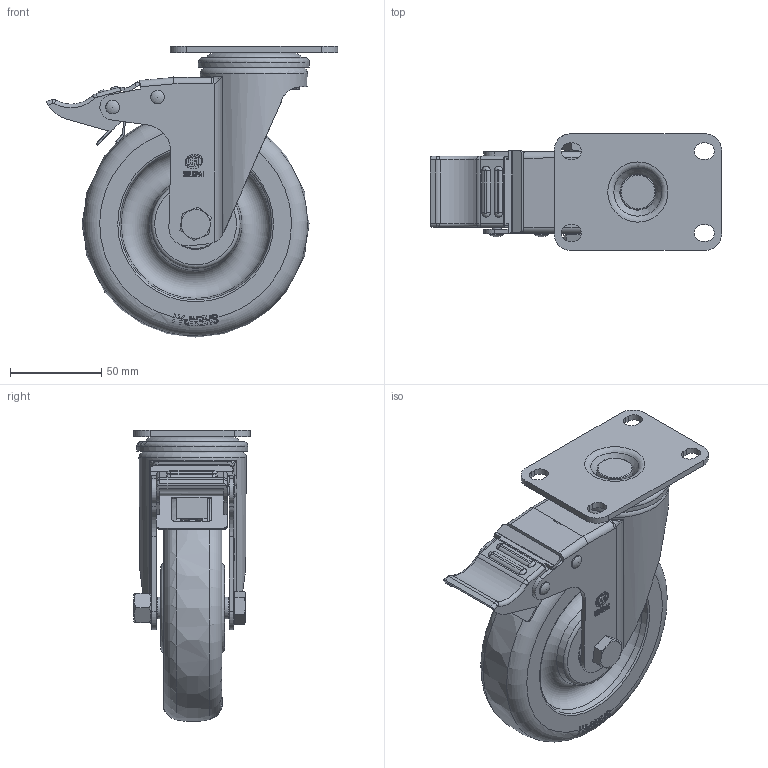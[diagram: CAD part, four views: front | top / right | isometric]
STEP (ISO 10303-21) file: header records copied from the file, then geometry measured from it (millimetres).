
FILE_DESCRIPTION(/* description */ (''),/* implementation_level */ '2;1');
FILE_NAME(/* name */ '20A89_5_F.stp',/* time_stamp */ '2022-09-03T10:51:22+08:00',/* author */ (''),/* organization */ (''),/* preprocessor_version */ 'ST-DEVELOPER v14',/* originating_system */ 'SIEMENS PLM Software NX 8.0',/* authorisation */ '');
FILE_SCHEMA (('AUTOMOTIVE_DESIGN { 1 0 10303 214 3 1 1 1 }'));
Length unit declared in the file: millimetre
Products named in the file (1): 20A89_5_F
Bounding box: 159.97 x 64.25 x 159.88 mm (x, y, z)
Volume: 409273.6 mm3; surface area: 116225.2 mm2
Topology: 1 solids, 2 shells, 1090 faces, 3210 edges, 2119 vertices
Faces by surface type: plane 560, cylinder 275, torus 113, cone 44, sphere 44, extrusion 34, bspline 20
Full cylindrical faces by diameter (mm): 4 x2, 5 x2, 5.2 x7, 7.5 x2, 10 x2, 10.3 x2, 11.8 x3, 12 x2, 12.2 x1, 12.496 x1, 16 x1, 16.8 x1, 24 x1, 28 x2, 30.122 x1, 45.996 x1, 54 x1, 56 x1, 59 x1, 61 x1
Entity records: 41736 total; most frequent: CARTESIAN_POINT 15279, ORIENTED_EDGE 5862, DIRECTION 4887, EDGE_CURVE 2931, VERTEX_POINT 1982, AXIS2_PLACEMENT_3D 1793, VECTOR 1301, EDGE_LOOP 1275
